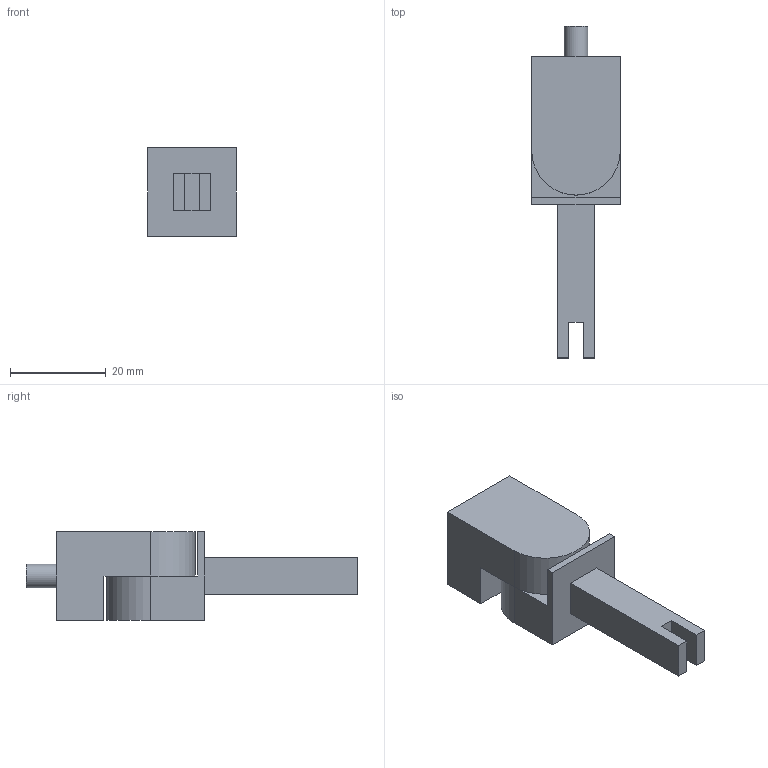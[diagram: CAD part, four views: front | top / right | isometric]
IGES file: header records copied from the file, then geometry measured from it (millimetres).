
Start section: Data from Parasolid IGES Translator 20.0.26, Copyright(c) 2006 Siemens P LM Software. All Rights Reserved.
Global section: file name: 9303952.igs; native system: By Siemens PLM Incorporated; preprocessor: XPlus GENERIC/IGES 20.0.26; author: Noname; organization: Noname; date: 20210824.171004; units: millimetre
Bounding box: 18.5 x 69.4 x 18.5 mm (x, y, z)
Surface area: 5437.6 mm2 (no closed solid volume)
Topology: 0 solids, 0 shells, 35 faces, 150 edges, 140 vertices
Faces by surface type: extrusion 28, revolution 7
